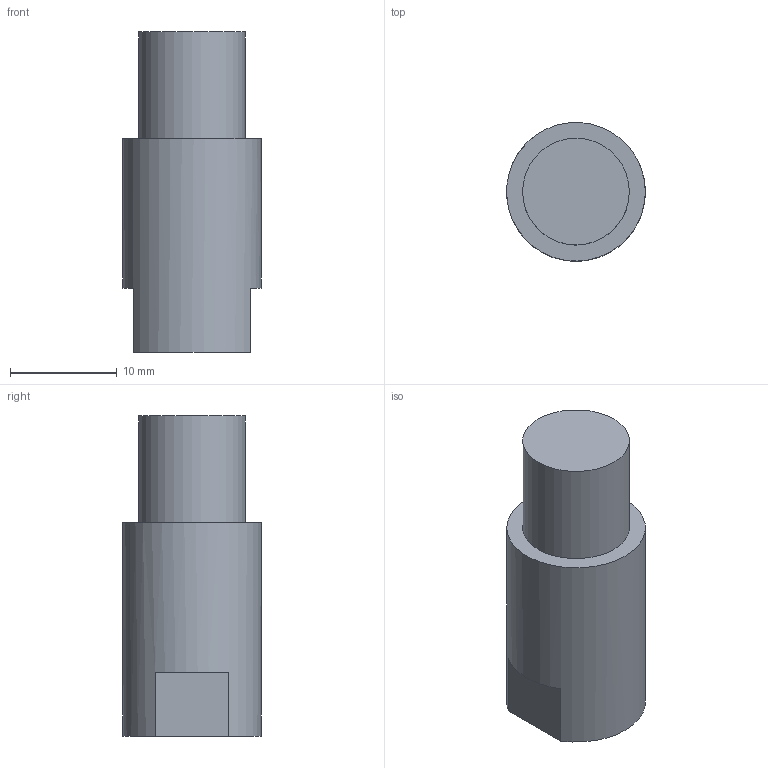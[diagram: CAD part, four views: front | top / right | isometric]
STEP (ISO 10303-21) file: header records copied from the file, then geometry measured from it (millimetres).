
FILE_DESCRIPTION(/* description */ (''),/* implementation_level */ '2;1');
FILE_NAME(/* name */ '3DCAD_AC-L300-PB30.stp',/* time_stamp */ '2015-12-17T10:54:45+01:00',/* author */ ('CC2'),/* organization */ ('Leuze electronic'),/* preprocessor_version */ 'ST-DEVELOPER v15',/* originating_system */ 'SIEMENS PLM Software NX 8.5',/* authorisation */ '');
FILE_SCHEMA (('AUTOMOTIVE_DESIGN { 1 0 10303 214 3 1 1 1 }'));
Length unit declared in the file: millimetre
Products named in the file (1): 008400_00.0
Bounding box: 12.99 x 13 x 30 mm (x, y, z)
Volume: 2598.3 mm3; surface area: 1706.1 mm2
Topology: 1 solids, 1 shells, 11 faces, 21 edges, 14 vertices
Faces by surface type: plane 8, cylinder 3
Full cylindrical faces by diameter (mm): 10 x2, 13 x1
Entity records: 284 total; most frequent: DIRECTION 50, CARTESIAN_POINT 42, ORIENTED_EDGE 34, AXIS2_PLACEMENT_3D 21, EDGE_CURVE 17, EDGE_LOOP 16, VERTEX_POINT 13, ADVANCED_FACE 11
